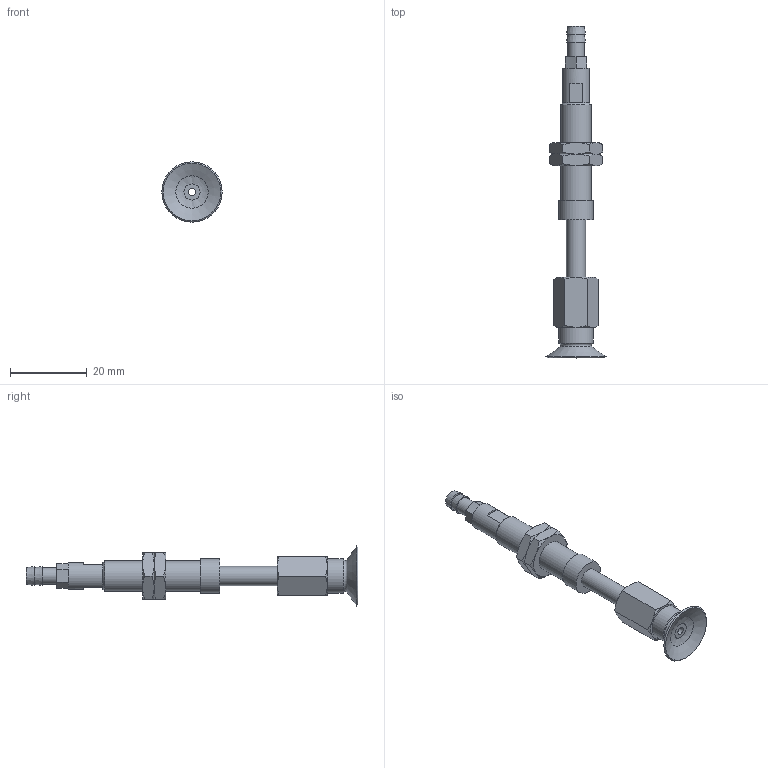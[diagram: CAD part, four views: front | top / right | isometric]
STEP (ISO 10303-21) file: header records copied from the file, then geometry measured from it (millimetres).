
FILE_DESCRIPTION(('STEP AP203'),'1');
FILE_NAME('-T.stp','2025-08-27T05:57:09',(' '),(' '),'Spatial InterOp 3D',' ',' ');
FILE_SCHEMA(('CONFIG_CONTROL_DESIGN'));
Length unit declared in the file: millimetre
Products named in the file (7): BNABPFTS-15A-15-※-T; ADAPTER; NAPATS-10A-15--M; Nut-15A-15-s; NAPFTS-15A-15-FBODY; BPFG-15A-※; T
Assembly tree (7 placements, depth 2):
  BNABPFTS-15A-15-※-T
    ADAPTER
    NAPATS-10A-15--M
    Nut-15A-15-s  x2
    NAPFTS-15A-15-FBODY
    BPFG-15A-※
    T
Bounding box: 15.7 x 86.5 x 15.7 mm (x, y, z)
Volume: 4224.7 mm3; surface area: 5275.7 mm2
Topology: 7 solids, 7 shells, 131 faces, 269 edges, 163 vertices
Faces by surface type: plane 53, cone 49, cylinder 19, torus 9, bspline 1
Full cylindrical faces by diameter (mm): 2 x3, 3 x1, 4 x2, 4.134 x1, 4.3 x1, 5 x3, 6 x2, 7 x1, 7.188 x2, 8 x1, 9 x2
Entity records: 3149 total; most frequent: CARTESIAN_POINT 733, DIRECTION 442, ORIENTED_EDGE 348, AXIS2_PLACEMENT_3D 201, EDGE_CURVE 174, EDGE_LOOP 170, FACE_OUTER_BOUND 136, VERTEX_POINT 128
